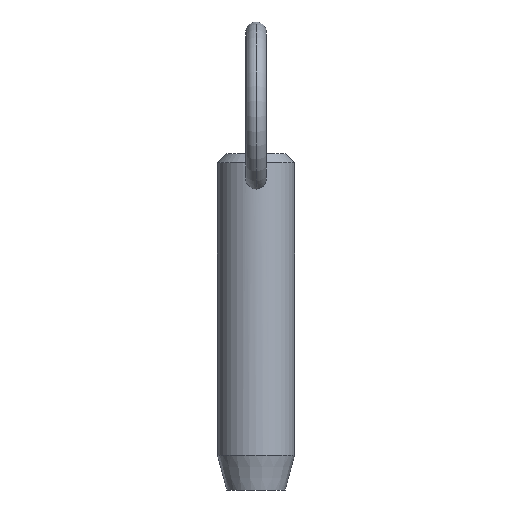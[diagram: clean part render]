
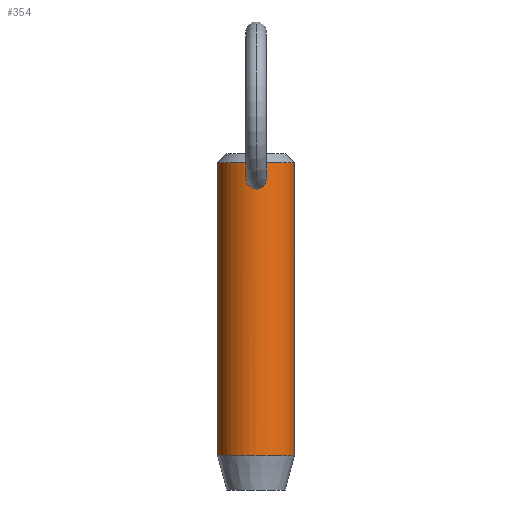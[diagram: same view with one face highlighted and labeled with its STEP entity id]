
A CAD part, front view. The second image highlights one B-rep face of the part: STEP entity #354.
In plain terms, the highlighted cylindrical face has radius 5.55 mm (diameter 11.1 mm), a partial arc.
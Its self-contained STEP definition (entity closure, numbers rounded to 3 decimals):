
#5 = CARTESIAN_POINT ( 'NONE',  ( -0.785, -5.497, 32.358 ) ) ;
#7 = DIRECTION ( 'NONE',  ( 1., 0., 0. ) ) ;
#17 = EDGE_CURVE ( 'NONE', #462, #286, #505, .T. ) ;
#18 = CARTESIAN_POINT ( 'NONE',  ( 0., 0., 27.9 ) ) ;
#19 = EDGE_CURVE ( 'NONE', #74, #286, #356, .T. ) ;
#29 = CARTESIAN_POINT ( 'NONE',  ( 5.55, 0., 32.95 ) ) ;
#31 = ORIENTED_EDGE ( 'NONE', *, *, #307, .T. ) ;
#33 = CARTESIAN_POINT ( 'NONE',  ( -0.513, -5.527, 32.523 ) ) ;
#35 = CARTESIAN_POINT ( 'NONE',  ( -1.5, -5.343, 30.653 ) ) ;
#38 = FACE_BOUND ( 'NONE', #157, .T. ) ;
#42 = CARTESIAN_POINT ( 'NONE',  ( -1.054, -5.449, 29.604 ) ) ;
#46 = CARTESIAN_POINT ( 'NONE',  ( 1.44, -5.36, 31.286 ) ) ;
#47 = CARTESIAN_POINT ( 'NONE',  ( 0.523, -5.526, 29.266 ) ) ;
#54 = AXIS2_PLACEMENT_3D ( 'NONE', #70, #429, #465 ) ;
#58 = CARTESIAN_POINT ( 'NONE',  ( 1.503, -5.343, 30.759 ) ) ;
#70 = CARTESIAN_POINT ( 'NONE',  ( 0., 0., -9.2 ) ) ;
#72 = CIRCLE ( 'NONE', #479, 5.55 ) ;
#74 = VERTEX_POINT ( 'NONE', #29 ) ;
#80 = CARTESIAN_POINT ( 'NONE',  ( 0., -5.55, 32.645 ) ) ;
#84 = CARTESIAN_POINT ( 'NONE',  ( -5.55, 0., 32.95 ) ) ;
#86 = CARTESIAN_POINT ( 'NONE',  ( -0.212, -5.547, 29.188 ) ) ;
#89 = CARTESIAN_POINT ( 'NONE',  ( 1.363, -5.38, 30.034 ) ) ;
#90 = CARTESIAN_POINT ( 'NONE',  ( 0.213, -5.547, 29.188 ) ) ;
#92 = CARTESIAN_POINT ( 'NONE',  ( 1.486, -5.347, 31.074 ) ) ;
#94 = CARTESIAN_POINT ( 'NONE',  ( 0.941, -5.471, 32.207 ) ) ;
#101 = DIRECTION ( 'NONE',  ( -1., 0., 0. ) ) ;
#114 = FACE_OUTER_BOUND ( 'NONE', #274, .T. ) ;
#120 = CARTESIAN_POINT ( 'NONE',  ( -0.107, -5.55, 29.177 ) ) ;
#134 = VERTEX_POINT ( 'NONE', #308 ) ;
#136 = EDGE_CURVE ( 'NONE', #134, #491, #506, .T. ) ;
#142 = DIRECTION ( 'NONE',  ( 0., 0., -1. ) ) ;
#150 = CARTESIAN_POINT ( 'NONE',  ( -0.976, -5.464, 29.531 ) ) ;
#157 = EDGE_LOOP ( 'NONE', ( #31, #408 ) ) ;
#160 = CARTESIAN_POINT ( 'NONE',  ( -0.716, -5.504, 29.352 ) ) ;
#162 = CARTESIAN_POINT ( 'NONE',  ( 0.417, -5.535, 32.567 ) ) ;
#168 = CARTESIAN_POINT ( 'NONE',  ( 5.55, 0., -9.2 ) ) ;
#181 = CARTESIAN_POINT ( 'NONE',  ( -5.55, 0., 27.9 ) ) ;
#191 = CARTESIAN_POINT ( 'NONE',  ( -5.55, 0., -9.2 ) ) ;
#193 = CARTESIAN_POINT ( 'NONE',  ( 0., -5.55, 32.645 ) ) ;
#196 = CARTESIAN_POINT ( 'NONE',  ( -1.503, -5.343, 30.759 ) ) ;
#202 = CARTESIAN_POINT ( 'NONE',  ( -0.807, -5.492, 29.405 ) ) ;
#205 = CARTESIAN_POINT ( 'NONE',  ( -1.362, -5.381, 30.032 ) ) ;
#206 = VERTEX_POINT ( 'NONE', #84 ) ;
#208 = CARTESIAN_POINT ( 'NONE',  ( 0.421, -5.535, 29.232 ) ) ;
#210 = CARTESIAN_POINT ( 'NONE',  ( 0.807, -5.492, 29.406 ) ) ;
#213 = CARTESIAN_POINT ( 'NONE',  ( 0.106, -5.55, 32.645 ) ) ;
#217 = DIRECTION ( 'NONE',  ( 0., 0., -1. ) ) ;
#232 = ORIENTED_EDGE ( 'NONE', *, *, #17, .T. ) ;
#242 = CARTESIAN_POINT ( 'NONE',  ( -0.939, -5.472, 32.21 ) ) ;
#243 = CARTESIAN_POINT ( 'NONE',  ( 1.055, -5.449, 29.605 ) ) ;
#245 = CARTESIAN_POINT ( 'NONE',  ( 1.295, -5.397, 31.682 ) ) ;
#249 = ORIENTED_EDGE ( 'NONE', *, *, #287, .T. ) ;
#252 = VECTOR ( 'NONE', #270, 1000. ) ;
#270 = DIRECTION ( 'NONE',  ( 0., 0., -1. ) ) ;
#271 = CARTESIAN_POINT ( 'NONE',  ( -1.44, -5.36, 31.287 ) ) ;
#274 = EDGE_LOOP ( 'NONE', ( #454, #249, #335, #232 ) ) ;
#284 = CARTESIAN_POINT ( 'NONE',  ( 0., -5.55, 29.177 ) ) ;
#286 = VERTEX_POINT ( 'NONE', #168 ) ;
#287 = EDGE_CURVE ( 'NONE', #74, #206, #72, .T. ) ;
#291 = CARTESIAN_POINT ( 'NONE',  ( 0.214, -5.547, 32.628 ) ) ;
#307 = EDGE_CURVE ( 'NONE', #491, #134, #339, .T. ) ;
#308 = CARTESIAN_POINT ( 'NONE',  ( 0., -5.55, 29.177 ) ) ;
#317 = CARTESIAN_POINT ( 'NONE',  ( -0.211, -5.547, 32.629 ) ) ;
#323 = CARTESIAN_POINT ( 'NONE',  ( 1.455, -5.356, 30.338 ) ) ;
#324 = CARTESIAN_POINT ( 'NONE',  ( 0., 0., 32.95 ) ) ;
#330 = CARTESIAN_POINT ( 'NONE',  ( 1.477, -5.35, 30.444 ) ) ;
#335 = ORIENTED_EDGE ( 'NONE', *, *, #386, .T. ) ;
#339 = B_SPLINE_CURVE_WITH_KNOTS ( 'NONE', 3,
 ( #404, #213, #291, #162, #443, #440, #94, #498, #245, #46, #92, #58, #484, #330, #323, #89, #406, #243, #368, #210, #489, #47, #208, #90, #488, #284 ),
 .UNSPECIFIED., .F., .F.,
 ( 4, 2, 2, 2, 2, 2, 2, 2, 2, 2, 2, 2, 4 ),
 ( 0.005, 0.005, 0.005, 0.006, 0.006, 0.007, 0.007, 0.008, 0.008, 0.009, 0.009, 0.009, 0.01 ),
 .UNSPECIFIED. ) ;
#340 = DIRECTION ( 'NONE',  ( 0., 0., -1. ) ) ;
#354 = ADVANCED_FACE ( 'NONE', ( #114, #38 ), #411, .T. ) ;
#356 = LINE ( 'NONE', #425, #252 ) ;
#361 = CARTESIAN_POINT ( 'NONE',  ( -1.485, -5.348, 31.079 ) ) ;
#368 = CARTESIAN_POINT ( 'NONE',  ( 0.977, -5.464, 29.532 ) ) ;
#386 = EDGE_CURVE ( 'NONE', #206, #462, #518, .T. ) ;
#391 = CARTESIAN_POINT ( 'NONE',  ( -0.42, -5.535, 29.232 ) ) ;
#397 = CARTESIAN_POINT ( 'NONE',  ( -1.195, -5.421, 31.871 ) ) ;
#398 = CARTESIAN_POINT ( 'NONE',  ( -1.477, -5.35, 30.442 ) ) ;
#401 = CARTESIAN_POINT ( 'NONE',  ( 0., -5.55, 29.177 ) ) ;
#404 = CARTESIAN_POINT ( 'NONE',  ( 0., -5.55, 32.645 ) ) ;
#406 = CARTESIAN_POINT ( 'NONE',  ( 1.26, -5.407, 29.843 ) ) ;
#407 = VECTOR ( 'NONE', #142, 1000. ) ;
#408 = ORIENTED_EDGE ( 'NONE', *, *, #136, .T. ) ;
#411 = CYLINDRICAL_SURFACE ( 'NONE', #447, 5.55 ) ;
#425 = CARTESIAN_POINT ( 'NONE',  ( 5.55, 0., 27.9 ) ) ;
#429 = DIRECTION ( 'NONE',  ( 0., 0., 1. ) ) ;
#432 = CARTESIAN_POINT ( 'NONE',  ( -0.523, -5.526, 29.266 ) ) ;
#437 = CARTESIAN_POINT ( 'NONE',  ( -1.294, -5.398, 31.686 ) ) ;
#439 = CARTESIAN_POINT ( 'NONE',  ( -1.26, -5.407, 29.842 ) ) ;
#440 = CARTESIAN_POINT ( 'NONE',  ( 0.786, -5.497, 32.357 ) ) ;
#443 = CARTESIAN_POINT ( 'NONE',  ( 0.515, -5.527, 32.522 ) ) ;
#447 = AXIS2_PLACEMENT_3D ( 'NONE', #18, #340, #101 ) ;
#454 = ORIENTED_EDGE ( 'NONE', *, *, #19, .F. ) ;
#462 = VERTEX_POINT ( 'NONE', #191 ) ;
#465 = DIRECTION ( 'NONE',  ( -1., 0., 0. ) ) ;
#475 = CARTESIAN_POINT ( 'NONE',  ( -0.416, -5.535, 32.567 ) ) ;
#479 = AXIS2_PLACEMENT_3D ( 'NONE', #324, #217, #7 ) ;
#483 = CARTESIAN_POINT ( 'NONE',  ( -1.455, -5.356, 30.336 ) ) ;
#484 = CARTESIAN_POINT ( 'NONE',  ( 1.5, -5.343, 30.654 ) ) ;
#488 = CARTESIAN_POINT ( 'NONE',  ( 0.107, -5.55, 29.177 ) ) ;
#489 = CARTESIAN_POINT ( 'NONE',  ( 0.716, -5.504, 29.352 ) ) ;
#491 = VERTEX_POINT ( 'NONE', #193 ) ;
#498 = CARTESIAN_POINT ( 'NONE',  ( 1.194, -5.422, 31.871 ) ) ;
#505 = CIRCLE ( 'NONE', #54, 5.55 ) ;
#506 = B_SPLINE_CURVE_WITH_KNOTS ( 'NONE', 3,
 ( #401, #120, #86, #391, #432, #160, #202, #150, #42, #439, #205, #483, #398, #35, #196, #361, #271, #437, #397, #242, #5, #33, #475, #317, #523, #80 ),
 .UNSPECIFIED., .F., .F.,
 ( 4, 2, 2, 2, 2, 2, 2, 2, 2, 2, 2, 2, 4 ),
 ( 0.01, 0.01, 0.01, 0.011, 0.011, 0.012, 0.012, 0.012, 0.013, 0.013, 0.014, 0.014, 0.015 ),
 .UNSPECIFIED. ) ;
#518 = LINE ( 'NONE', #181, #407 ) ;
#523 = CARTESIAN_POINT ( 'NONE',  ( -0.106, -5.55, 32.645 ) ) ;
